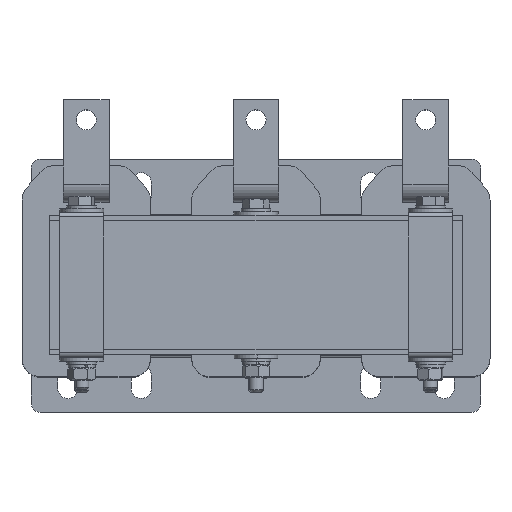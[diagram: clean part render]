
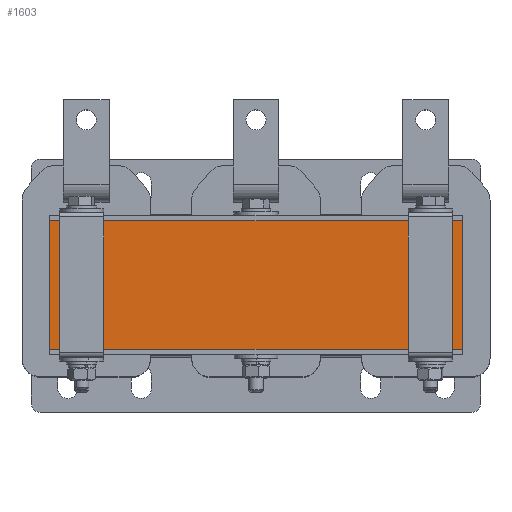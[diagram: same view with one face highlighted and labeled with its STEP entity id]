
A CAD part, top view. The second image highlights one B-rep face of the part: STEP entity #1603.
In plain terms, the highlighted planar face has unit normal (0, 0, 1).
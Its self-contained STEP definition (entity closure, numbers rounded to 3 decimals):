
#665 = VECTOR ( 'NONE', #6156, 1000. ) ;
#1333 = CARTESIAN_POINT ( 'NONE',  ( -112.5, -35., 245. ) ) ;
#1428 = VECTOR ( 'NONE', #7152, 1000. ) ;
#1603 = ADVANCED_FACE ( 'NONE', ( #2960 ), #8275, .T. ) ;
#2222 = CARTESIAN_POINT ( 'NONE',  ( -112.5, -35., 245. ) ) ;
#2372 = DIRECTION ( 'NONE',  ( 1., 0., 0. ) ) ;
#2467 = CARTESIAN_POINT ( 'NONE',  ( -112.5, -35., 245. ) ) ;
#2648 = LINE ( 'NONE', #8825, #5956 ) ;
#2770 = VECTOR ( 'NONE', #2372, 1000. ) ;
#2915 = EDGE_CURVE ( 'NONE', #4955, #4706, #2648, .T. ) ;
#2960 = FACE_OUTER_BOUND ( 'NONE', #3659, .T. ) ;
#3080 = CARTESIAN_POINT ( 'NONE',  ( 112.5, -35., 245. ) ) ;
#3246 = EDGE_CURVE ( 'NONE', #4706, #8142, #9463, .T. ) ;
#3659 = EDGE_LOOP ( 'NONE', ( #9901, #7885, #9060, #4846 ) ) ;
#4155 = CARTESIAN_POINT ( 'NONE',  ( -112.5, 35., 245. ) ) ;
#4695 = LINE ( 'NONE', #2467, #2770 ) ;
#4706 = VERTEX_POINT ( 'NONE', #8570 ) ;
#4846 = ORIENTED_EDGE ( 'NONE', *, *, #5011, .T. ) ;
#4955 = VERTEX_POINT ( 'NONE', #2222 ) ;
#5011 = EDGE_CURVE ( 'NONE', #5750, #8142, #6926, .T. ) ;
#5129 = CARTESIAN_POINT ( 'NONE',  ( 112.5, 35., 245. ) ) ;
#5228 = DIRECTION ( 'NONE',  ( 0., 0., 1. ) ) ;
#5509 = EDGE_CURVE ( 'NONE', #4955, #5750, #4695, .T. ) ;
#5750 = VERTEX_POINT ( 'NONE', #8846 ) ;
#5956 = VECTOR ( 'NONE', #7321, 1000. ) ;
#6156 = DIRECTION ( 'NONE',  ( 0., 1., 0. ) ) ;
#6926 = LINE ( 'NONE', #3080, #665 ) ;
#7152 = DIRECTION ( 'NONE',  ( 1., 0., 0. ) ) ;
#7321 = DIRECTION ( 'NONE',  ( 0., 1., 0. ) ) ;
#7619 = DIRECTION ( 'NONE',  ( 1., 0., 0. ) ) ;
#7885 = ORIENTED_EDGE ( 'NONE', *, *, #2915, .F. ) ;
#8142 = VERTEX_POINT ( 'NONE', #5129 ) ;
#8210 = AXIS2_PLACEMENT_3D ( 'NONE', #1333, #5228, #7619 ) ;
#8275 = PLANE ( 'NONE',  #8210 ) ;
#8570 = CARTESIAN_POINT ( 'NONE',  ( -112.5, 35., 245. ) ) ;
#8825 = CARTESIAN_POINT ( 'NONE',  ( -112.5, -35., 245. ) ) ;
#8846 = CARTESIAN_POINT ( 'NONE',  ( 112.5, -35., 245. ) ) ;
#9060 = ORIENTED_EDGE ( 'NONE', *, *, #5509, .T. ) ;
#9463 = LINE ( 'NONE', #4155, #1428 ) ;
#9901 = ORIENTED_EDGE ( 'NONE', *, *, #3246, .F. ) ;
